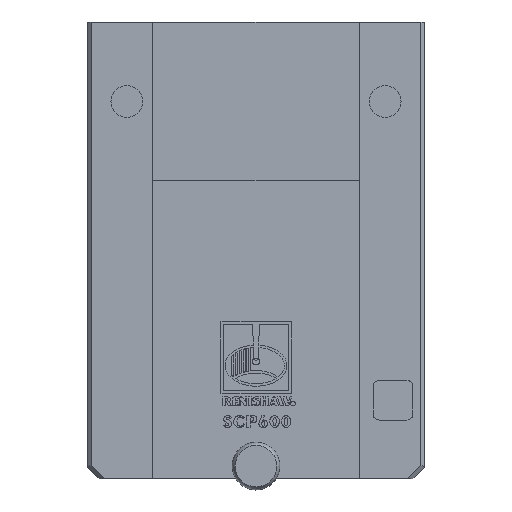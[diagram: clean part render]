
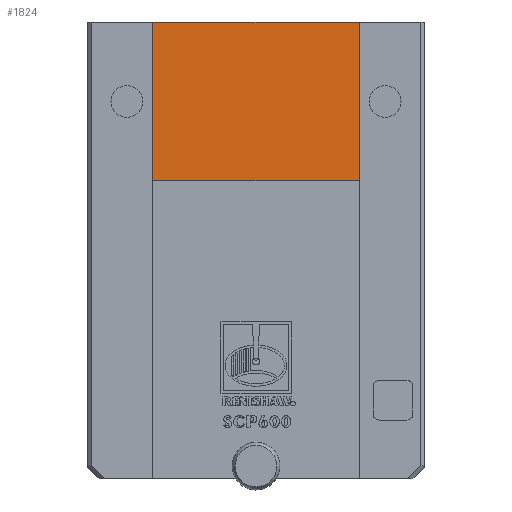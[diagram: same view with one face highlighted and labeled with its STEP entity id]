
A CAD part, top view. The second image highlights one B-rep face of the part: STEP entity #1824.
In plain terms, the highlighted planar face has unit normal (0, 0, 1).
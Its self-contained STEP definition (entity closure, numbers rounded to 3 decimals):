
#1221=LINE('',#6308,#1459);
#1224=LINE('',#6314,#1462);
#1226=LINE('',#6320,#1464);
#1459=VECTOR('',#4718,1.);
#1462=VECTOR('',#4723,1.);
#1464=VECTOR('',#4731,1.);
#1691=FACE_BOUND('',#2216,.T.);
#1692=FACE_BOUND('',#2217,.T.);
#1824=ADVANCED_FACE('',(#1691,#1692),#1929,.T.);
#1929=PLANE('',#4129);
#2216=EDGE_LOOP('',(#3099));
#2217=EDGE_LOOP('',(#3100,#3101,#3102,#3103));
#3099=ORIENTED_EDGE('',*,*,#3893,.T.);
#3100=ORIENTED_EDGE('',*,*,#3895,.T.);
#3101=ORIENTED_EDGE('',*,*,#3898,.F.);
#3102=ORIENTED_EDGE('',*,*,#3900,.F.);
#3103=ORIENTED_EDGE('',*,*,#3901,.T.);
#3454=VERTEX_POINT('',#6304);
#3455=VERTEX_POINT('',#6307);
#3456=VERTEX_POINT('',#6309);
#3457=VERTEX_POINT('',#6313);
#3458=VERTEX_POINT('',#6317);
#3893=EDGE_CURVE('',#3454,#3454,#3944,.T.);
#3895=EDGE_CURVE('',#3456,#3455,#1221,.T.);
#3898=EDGE_CURVE('',#3457,#3455,#1224,.T.);
#3900=EDGE_CURVE('',#3458,#3457,#3945,.T.);
#3901=EDGE_CURVE('',#3458,#3456,#1226,.T.);
#3944=CIRCLE('',#4122,1.033);
#3945=CIRCLE('',#4126,26.);
#4122=AXIS2_PLACEMENT_3D('',#6303,#4713,#4714);
#4126=AXIS2_PLACEMENT_3D('',#6318,#4727,#4728);
#4129=AXIS2_PLACEMENT_3D('',#6322,#4734,#4735);
#4713=DIRECTION('',(0.,0.,-1.));
#4714=DIRECTION('',(-1.,0.,0.));
#4718=DIRECTION('',(-1.,0.,0.));
#4723=DIRECTION('',(0.,1.,0.));
#4727=DIRECTION('',(0.,0.,1.));
#4728=DIRECTION('',(0.,-1.,0.));
#4731=DIRECTION('',(0.,1.,0.));
#4734=DIRECTION('',(0.,0.,1.));
#4735=DIRECTION('',(0.,-1.,0.));
#6303=CARTESIAN_POINT('',(17.25,29.2,3.74));
#6304=CARTESIAN_POINT('',(16.217,29.2,3.74));
#6307=CARTESIAN_POINT('',(-26.,89.2,3.74));
#6308=CARTESIAN_POINT('',(26.,89.2,3.74));
#6309=CARTESIAN_POINT('',(26.,89.2,3.74));
#6313=CARTESIAN_POINT('',(-26.,0.2,3.74));
#6314=CARTESIAN_POINT('',(-26.,-35.8,3.74));
#6317=CARTESIAN_POINT('',(26.,0.2,3.74));
#6318=CARTESIAN_POINT('',(0.,0.2,3.74));
#6320=CARTESIAN_POINT('',(26.,-35.8,3.74));
#6322=CARTESIAN_POINT('',(0.,0.2,3.74));
